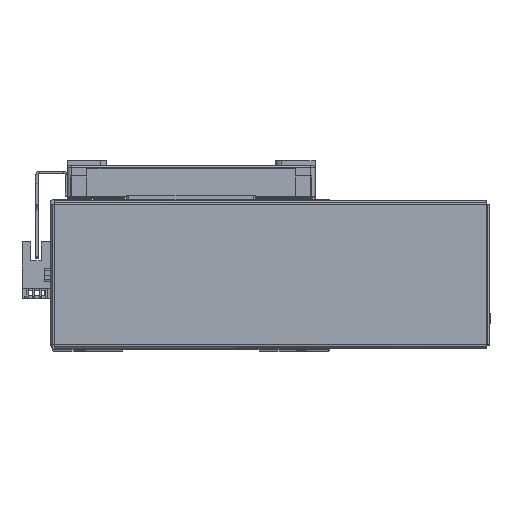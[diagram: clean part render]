
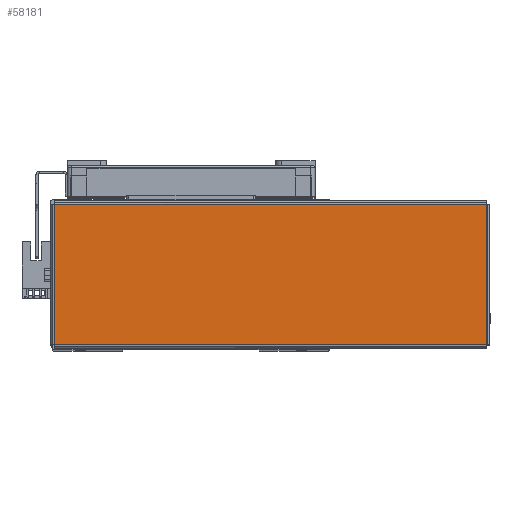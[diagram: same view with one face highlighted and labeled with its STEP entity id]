
A CAD part, top view. The second image highlights one B-rep face of the part: STEP entity #58181.
In plain terms, the highlighted planar face has unit normal (0, 0, 1) as drawn and (0, -1, 0) by its records, which use the part's own axes.
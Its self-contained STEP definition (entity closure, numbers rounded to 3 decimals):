
#6699 = CARTESIAN_POINT ( 'NONE',  ( 103.763, -1., 33.763 ) ) ;
#6713 = CARTESIAN_POINT ( 'NONE',  ( -103.763, -1., -33.763 ) ) ;
#9471 = CARTESIAN_POINT ( 'NONE',  ( -103.793, -1., -33.763 ) ) ;
#9492 = DIRECTION ( 'NONE',  ( 1., 0., 0. ) ) ;
#9510 = CARTESIAN_POINT ( 'NONE',  ( 103.763, -1., -33.793 ) ) ;
#9512 = DIRECTION ( 'NONE',  ( 0., 0., 1. ) ) ;
#9684 = DIRECTION ( 'NONE',  ( -1., 0., 0. ) ) ;
#9695 = CARTESIAN_POINT ( 'NONE',  ( 103.793, -1., 33.763 ) ) ;
#9787 = DIRECTION ( 'NONE',  ( 0., 0., -1. ) ) ;
#9825 = CARTESIAN_POINT ( 'NONE',  ( -103.763, -1., 33.793 ) ) ;
#10862 = AXIS2_PLACEMENT_3D ( 'NONE', #51381, #51357, #51431 ) ;
#15660 = LINE ( 'NONE', #9510, #15750 ) ;
#15681 = LINE ( 'NONE', #9471, #15783 ) ;
#15750 = VECTOR ( 'NONE', #9512, 1000. ) ;
#15783 = VECTOR ( 'NONE', #9492, 1000. ) ;
#15955 = LINE ( 'NONE', #9825, #16033 ) ;
#15957 = LINE ( 'NONE', #9695, #16057 ) ;
#16033 = VECTOR ( 'NONE', #9787, 1000. ) ;
#16057 = VECTOR ( 'NONE', #9684, 1000. ) ;
#18703 = VERTEX_POINT ( 'NONE', #6713 ) ;
#18722 = VERTEX_POINT ( 'NONE', #6699 ) ;
#22397 = ORIENTED_EDGE ( 'NONE', *, *, #53395, .T. ) ;
#22404 = ORIENTED_EDGE ( 'NONE', *, *, #53324, .T. ) ;
#22405 = ORIENTED_EDGE ( 'NONE', *, *, #53335, .T. ) ;
#22452 = ORIENTED_EDGE ( 'NONE', *, *, #53419, .T. ) ;
#37426 = CARTESIAN_POINT ( 'NONE',  ( 103.763, -1., -33.763 ) ) ;
#37456 = CARTESIAN_POINT ( 'NONE',  ( -103.763, -1., 33.763 ) ) ;
#49774 = EDGE_LOOP ( 'NONE', ( #22397, #22452, #22404, #22405 ) ) ;
#51357 = DIRECTION ( 'NONE',  ( 0., 1., 0. ) ) ;
#51381 = CARTESIAN_POINT ( 'NONE',  ( 0., -1., 0. ) ) ;
#51399 = PLANE ( 'NONE',  #10862 ) ;
#51431 = DIRECTION ( 'NONE',  ( 0., 0., 1. ) ) ;
#53324 = EDGE_CURVE ( 'NONE', #18703, #56495, #15681, .T. ) ;
#53335 = EDGE_CURVE ( 'NONE', #56495, #18722, #15660, .T. ) ;
#53395 = EDGE_CURVE ( 'NONE', #18722, #56497, #15957, .T. ) ;
#53419 = EDGE_CURVE ( 'NONE', #56497, #18703, #15955, .T. ) ;
#56495 = VERTEX_POINT ( 'NONE', #37426 ) ;
#56497 = VERTEX_POINT ( 'NONE', #37456 ) ;
#58181 = ADVANCED_FACE ( 'NONE', ( #60088 ), #51399, .F. ) ;
#60088 = FACE_OUTER_BOUND ( 'NONE', #49774, .T. ) ;
